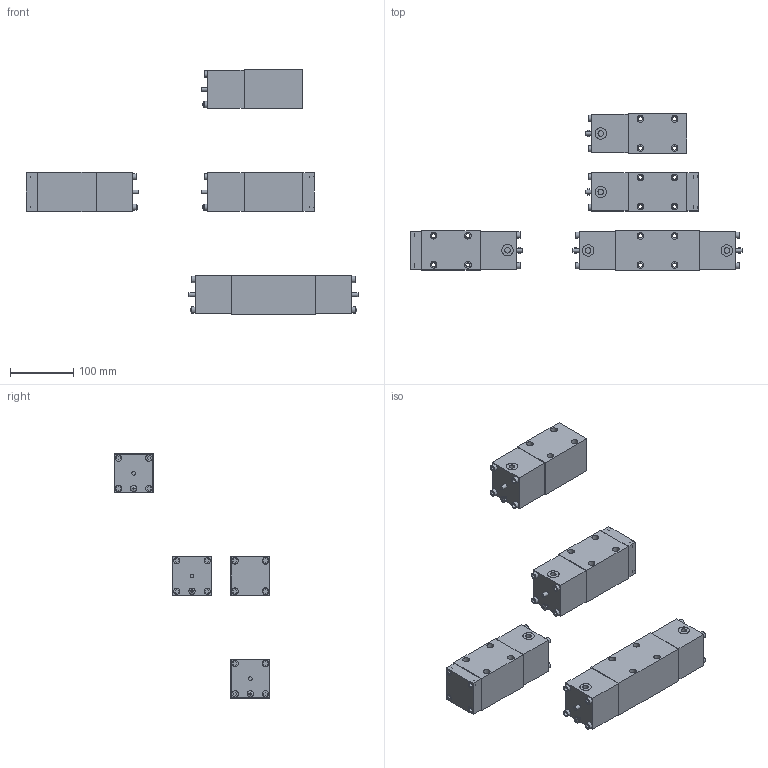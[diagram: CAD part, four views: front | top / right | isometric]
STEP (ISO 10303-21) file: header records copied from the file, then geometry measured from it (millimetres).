
FILE_DESCRIPTION(('Bauteilbeschreibung','HiCAD-Model','HiCAD-STEP-TRANSLATION','Bauteilbeschreibung'),'2;1');
FILE_NAME('C:/_EIGENE_DATEN/DXF_STEP/AK_10_4208..STP','2008-10-14T15:20:27+00:00',('Konstrukteur'),('Konstrukteur Firma GmbH'),' HiCAD neXt 2007, Step 3.1.1212.3C ','HiCAD neXt 2007','confidential');
FILE_SCHEMA(('AUTOMOTIVE_DESIGN { 1 2 10303 214 0 1 1 1 }'));
Length unit declared in the file: millimetre
Products named in the file (62): AK_10_4208 ; AK22101A; B9598AD9; A995C5BB; A995C5BB0; IN6KTM6; IN6KTM60; IN6KTM61; IN6KTM62; IN6KTM63; FLANSCH; AK32101A; A4248766; A205B8BF; A995C5BB1; A995C5BB2; IN6KTM64; IN6KTM65; IN6KTM66; IN6KTM67; IN6KTM68; A275F443; A275F4430; IN6KTM69; IN6KTM610; IN6KTM611; IN6KTM612; IN6KTM613; AK22100B_AK32100B; A30C67CD; A275F4431; A275F4432; IN6KTM614; IN6KTM615; IN6KTM616; IN6KTM617; IN6KTM618; A205B8BF0; A995C5BB3; A995C5BB4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
Assembly tree (61 placements, depth 6):
  AK_10_4208 
    AK22101A
      B9598AD9
        A995C5BB
        A995C5BB0
          IN6KTM6
            IN6KTM60
            IN6KTM61
            IN6KTM62
            IN6KTM63
        FLANSCH
    AK32101A
      A4248766
        A205B8BF
        A995C5BB1
        A995C5BB2
          IN6KTM64
            IN6KTM65
            IN6KTM66
            IN6KTM67
            IN6KTM68
        A275F443
        A275F4430
          IN6KTM69
            IN6KTM610
            IN6KTM611
            IN6KTM612
            IN6KTM613
    AK22100B_AK32100B
      A30C67CD
        A275F4431
        A275F4432
          IN6KTM614
            IN6KTM615
            IN6KTM616
            IN6KTM617
            IN6KTM618
        A205B8BF0
        A995C5BB3
        A995C5BB4
          IN6KTM619
            IN6KTM620
            IN6KTM621
            IN6KTM622
            IN6KTM623
    AK3410
      A2502BE1
        A995C5BB5
        A995C5BB6
          IN6KTM624
            IN6KTM625
            IN6KTM626
            IN6KTM627
            IN6KTM628
        A995C5BB7
        A995C5BB8
          IN6KTM629
            IN6KTM630
            IN6KTM631
            IN6KTM632
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Bounding box: 523.69 x 246 x 386 mm (x, y, z)
Volume: 2646184.1 mm3; surface area: 329769.2 mm2
Topology: 39 solids, 39 shells, 724 faces, 1537 edges, 1021 vertices
Faces by surface type: plane 530, cylinder 189, sphere 5
Full cylindrical faces by diameter (mm): 5 x5, 6 x33, 6.5 x44, 8.7 x5, 10 x33, 10.5 x24, 16.9 x20, 18 x5
Entity records: 19098 total; most frequent: DIRECTION 3384, CARTESIAN_POINT 3007, ORIENTED_EDGE 2508, AXIS2_PLACEMENT_3D 1284, EDGE_CURVE 1254, EDGE_LOOP 1111, VERTEX_POINT 907, LINE 816
